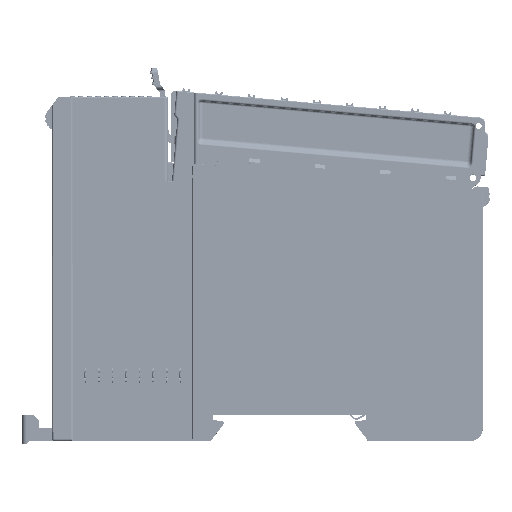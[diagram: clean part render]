
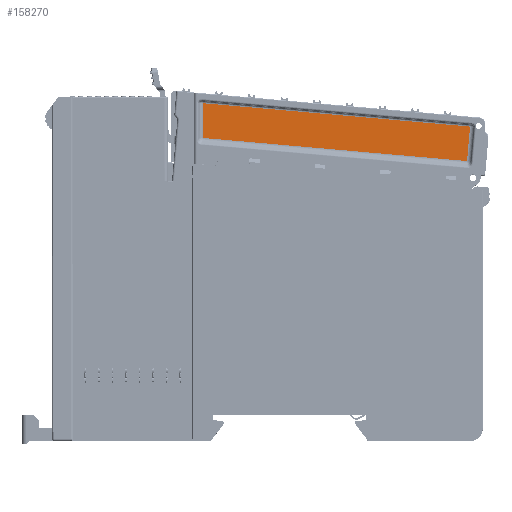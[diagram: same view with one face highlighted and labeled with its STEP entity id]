
A CAD part, top view. The second image highlights one B-rep face of the part: STEP entity #158270.
In plain terms, the highlighted planar face has unit normal (0, 0, 1).
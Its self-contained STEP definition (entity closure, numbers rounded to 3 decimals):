
#33800=CARTESIAN_POINT('',(33.122,-8.498,7.2));
#33810=VERTEX_POINT('',#33800);
#33860=CARTESIAN_POINT('',(33.122,53.745,7.2));
#33870=DIRECTION('',(0.,-1.,0.));
#33880=VECTOR('',#33870,1.);
#33890=LINE('',#33860,#33880);
#33900=CARTESIAN_POINT('',(33.122,53.745,7.2));
#33910=VERTEX_POINT('',#33900);
#33920=EDGE_CURVE('',#33910,#33810,#33890,.T.);
#157970=CARTESIAN_POINT('',(19.497,-36.528,7.2));
#157980=DIRECTION('',(0.,0.,1.));
#157990=DIRECTION('',(0.,-1.,0.));
#158000=AXIS2_PLACEMENT_3D('',#157970,#157980,#157990);
#158010=PLANE('',#158000);
#158020=CARTESIAN_POINT('',(31.861,-8.498,7.2));
#158030=DIRECTION('',(-1.,0.,0.));
#158040=VECTOR('',#158030,1.);
#158050=LINE('',#158020,#158040);
#158060=CARTESIAN_POINT('',(25.094,-8.498,7.2));
#158070=VERTEX_POINT('',#158060);
#158080=EDGE_CURVE('',#33810,#158070,#158050,.T.);
#158090=ORIENTED_EDGE('',*,*,#158080,.F.);
#158100=CARTESIAN_POINT('',(25.094,44.156,7.2));
#158110=DIRECTION('',(0.,1.,0.));
#158120=VECTOR('',#158110,1.);
#158130=LINE('',#158100,#158120);
#158140=CARTESIAN_POINT('',(25.094,53.043,7.2));
#158150=VERTEX_POINT('',#158140);
#158160=EDGE_CURVE('',#158070,#158150,#158130,.T.);
#158170=ORIENTED_EDGE('',*,*,#158160,.F.);
#158180=CARTESIAN_POINT('',(31.861,53.635,7.2));
#158190=DIRECTION('',(-0.996,-0.087,0.));
#158200=VECTOR('',#158190,1.);
#158210=LINE('',#158180,#158200);
#158220=EDGE_CURVE('',#33910,#158150,#158210,.T.);
#158230=ORIENTED_EDGE('',*,*,#158220,.T.);
#158240=ORIENTED_EDGE('',*,*,#33920,.F.);
#158250=EDGE_LOOP('',(#158240,#158230,#158170,#158090));
#158260=FACE_OUTER_BOUND('',#158250,.T.);
#158270=ADVANCED_FACE('',(#158260),#158010,.T.);
